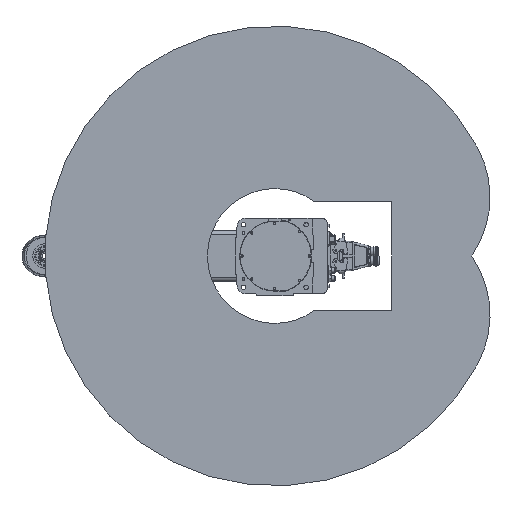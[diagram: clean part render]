
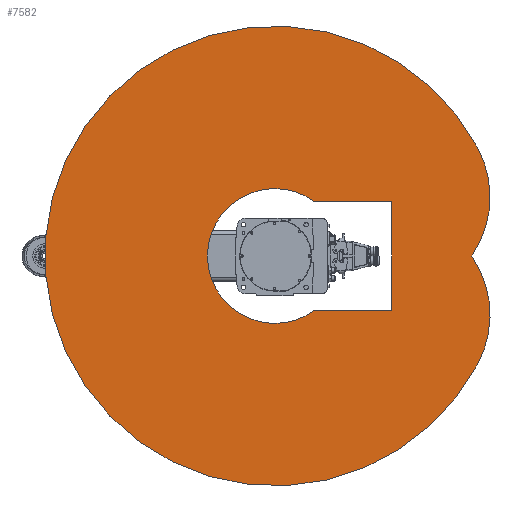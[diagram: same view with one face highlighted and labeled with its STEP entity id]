
A CAD part, front view. The second image highlights one B-rep face of the part: STEP entity #7582.
In plain terms, the highlighted planar face has unit normal (0, -1, 0).
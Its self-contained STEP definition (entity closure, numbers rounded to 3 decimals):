
#7582 = ADVANCED_FACE( '', ( #17153, #17154 ), #17155, .F. );
#17153 = FACE_OUTER_BOUND( '', #28799, .T. );
#17154 = FACE_BOUND( '', #28800, .T. );
#17155 = PLANE( '', #28801 );
#28799 = EDGE_LOOP( '', ( #49994, #49995, #49996 ) );
#28800 = EDGE_LOOP( '', ( #49997, #49998, #49999, #50000 ) );
#28801 = AXIS2_PLACEMENT_3D( '', #50001, #50002, #50003 );
#49994 = ORIENTED_EDGE( '', *, *, #63149, .F. );
#49995 = ORIENTED_EDGE( '', *, *, #67518, .F. );
#49996 = ORIENTED_EDGE( '', *, *, #65562, .F. );
#49997 = ORIENTED_EDGE( '', *, *, #60214, .T. );
#49998 = ORIENTED_EDGE( '', *, *, #62913, .T. );
#49999 = ORIENTED_EDGE( '', *, *, #67396, .T. );
#50000 = ORIENTED_EDGE( '', *, *, #60739, .T. );
#50001 = CARTESIAN_POINT( '', ( 70.421, 0., 132.442 ) );
#50002 = DIRECTION( '', ( 0., 1., 0. ) );
#50003 = DIRECTION( '', ( 0., 0., 1. ) );
#60214 = EDGE_CURVE( '', #70711, #70709, #70712, .T. );
#60739 = EDGE_CURVE( '', #71634, #70711, #71635, .T. );
#62913 = EDGE_CURVE( '', #70709, #75253, #75254, .T. );
#63149 = EDGE_CURVE( '', #75625, #75626, #75627, .T. );
#65562 = EDGE_CURVE( '', #75626, #79328, #79329, .T. );
#67396 = EDGE_CURVE( '', #75253, #71634, #81844, .T. );
#67518 = EDGE_CURVE( '', #79328, #75625, #82002, .T. );
#70709 = VERTEX_POINT( '', #86384 );
#70711 = VERTEX_POINT( '', #86387 );
#70712 = LINE( '', #86388, #86389 );
#71634 = VERTEX_POINT( '', #88143 );
#71635 = CIRCLE( '', #88144, 161.22 );
#75253 = VERTEX_POINT( '', #94345 );
#75254 = LINE( '', #94346, #94347 );
#75625 = VERTEX_POINT( '', #94917 );
#75626 = VERTEX_POINT( '', #94918 );
#75627 = CIRCLE( '', #94919, 250. );
#79328 = VERTEX_POINT( '', #101129 );
#79329 = CIRCLE( '', #101130, 550. );
#81844 = LINE( '', #105125, #105126 );
#82002 = CIRCLE( '', #105435, 250. );
#86384 = CARTESIAN_POINT( '', ( -130., 0., 280. ) );
#86387 = CARTESIAN_POINT( '', ( -130., 0., 95.351 ) );
#86388 = CARTESIAN_POINT( '', ( -130., 0., 0. ) );
#86389 = VECTOR( '', #110127, 1000. );
#88143 = CARTESIAN_POINT( '', ( 130., 0., 95.351 ) );
#88144 = AXIS2_PLACEMENT_3D( '', #110776, #110777, #110778 );
#94345 = CARTESIAN_POINT( '', ( 130., 0., 280. ) );
#94346 = CARTESIAN_POINT( '', ( -130., 0., 280. ) );
#94347 = VECTOR( '', #113464, 1000. );
#94917 = CARTESIAN_POINT( '', ( 0., 0., 471.436 ) );
#94918 = CARTESIAN_POINT( '', ( 258.209, 0., 485.621 ) );
#94919 = AXIS2_PLACEMENT_3D( '', #113754, #113755, #113756 );
#101129 = CARTESIAN_POINT( '', ( -258.209, 0., 485.621 ) );
#101130 = AXIS2_PLACEMENT_3D( '', #116798, #116799, #116800 );
#105125 = CARTESIAN_POINT( '', ( 130., 0., 280. ) );
#105126 = VECTOR( '', #118978, 1000. );
#105435 = AXIS2_PLACEMENT_3D( '', #119110, #119111, #119112 );
#110127 = DIRECTION( '', ( 0., 0., 1. ) );
#110776 = CARTESIAN_POINT( '', ( 0., 0., 0. ) );
#110777 = DIRECTION( '', ( 0., 1., 0. ) );
#110778 = DIRECTION( '', ( 1., 0., 0. ) );
#113464 = DIRECTION( '', ( 1., 0., 0. ) );
#113754 = CARTESIAN_POINT( '', ( 140.841, 0., 264.884 ) );
#113755 = DIRECTION( '', ( 0., 1., 0. ) );
#113756 = DIRECTION( '', ( 1., 0., 0. ) );
#116798 = CARTESIAN_POINT( '', ( 0., 0., 0. ) );
#116799 = DIRECTION( '', ( 0., 1., 0. ) );
#116800 = DIRECTION( '', ( 1., 0., 0. ) );
#118978 = DIRECTION( '', ( 0., 0., -1. ) );
#119110 = CARTESIAN_POINT( '', ( -140.841, 0., 264.884 ) );
#119111 = DIRECTION( '', ( 0., 1., 0. ) );
#119112 = DIRECTION( '', ( 1., 0., 0. ) );
